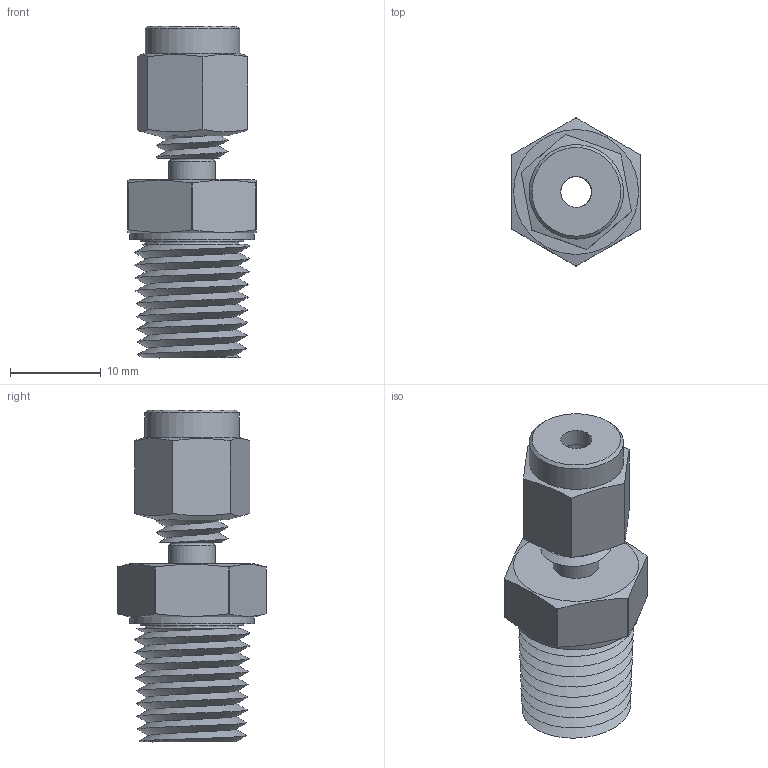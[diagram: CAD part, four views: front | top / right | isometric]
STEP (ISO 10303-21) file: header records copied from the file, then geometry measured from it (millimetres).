
FILE_DESCRIPTION(/* description */ (''),/* implementation_level */ '2;1');
FILE_NAME(/* name */ 'C:\Users\JN\Documents\CAD Drawings\The Sensor Connection\3D\CF\CF-0125-NPT\CF-0125-14-NPT.stp',/* time_stamp */ '2017-11-14T12:10:42-05:00',/* author */ ('JN'),/* organization */ (''),/* preprocessor_version */ 'ST-DEVELOPER v15.6',/* originating_system */ 'Autodesk Inventor 2015',/* authorisation */ '');
FILE_SCHEMA (('AUTOMOTIVE_DESIGN { 1 0 10303 214 3 1 1 }'));
Length unit declared in the file: inch
Products named in the file (5): CF-0125-NPT Bottom Ferrule; CF-0125-NPT Cap; CF-0125-NPT Top Ferrule; CF-0125-14-NPT Threaded Body; CF-0125-14-NPT
Assembly tree (4 placements, depth 2):
  CF-0125-14-NPT
    CF-0125-NPT Bottom Ferrule
    CF-0125-NPT Cap
    CF-0125-NPT Top Ferrule
    CF-0125-14-NPT Threaded Body
Bounding box: 14.17 x 16.33 x 36.59 mm (x, y, z)
Volume: 3248.4 mm3; surface area: 4633 mm2
Topology: 4 solids, 4 shells, 86 faces, 204 edges, 134 vertices
Faces by surface type: plane 33, cylinder 30, cone 11, bspline 8, torus 4
Full cylindrical faces by diameter (mm): 3.429 x12, 4.343 x1, 4.572 x1, 5.08 x1, 5.715 x1, 5.931 x1, 6.947 x1, 8.341 x1, 10.414 x1, 11.43 x1, 13.716 x1
Entity records: 6770 total; most frequent: CARTESIAN_POINT 5155, DIRECTION 298, ORIENTED_EDGE 280, EDGE_CURVE 140, AXIS2_PLACEMENT_3D 138, EDGE_LOOP 120, VERTEX_POINT 106, FACE_OUTER_BOUND 77
